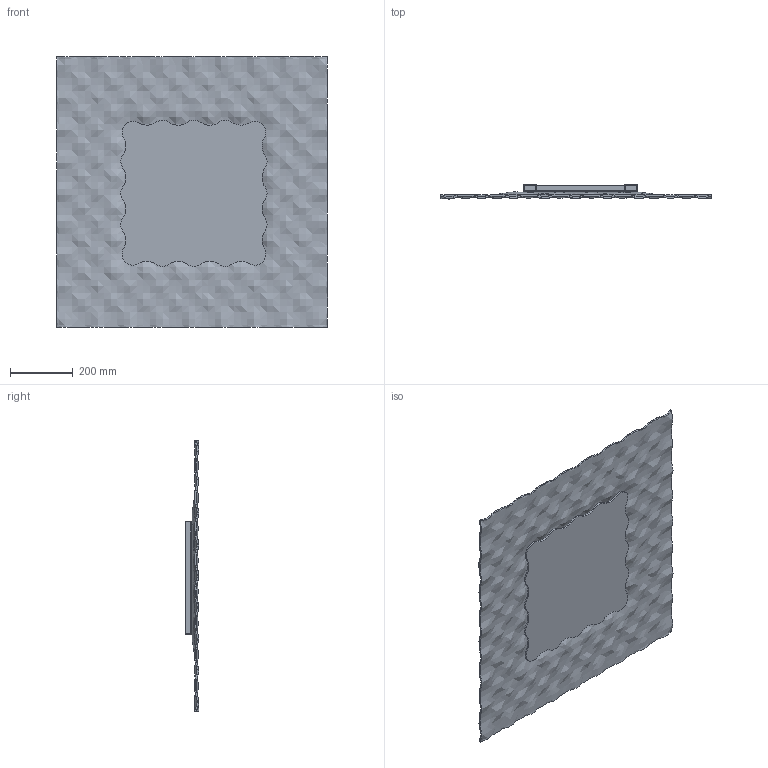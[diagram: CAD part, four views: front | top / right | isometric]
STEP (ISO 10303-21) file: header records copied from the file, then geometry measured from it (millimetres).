
FILE_DESCRIPTION(/* description */ (''),/* implementation_level */ '2;1');
FILE_NAME(/* name */ 'POP_86x86',/* time_stamp */ '2025-02-21T17:12:52+01:00',/* author */ (''),/* organization */ (''),/* preprocessor_version */ 'ST-DEVELOPER v16.5',/* originating_system */ '',/* authorisation */ '');
FILE_SCHEMA (('AUTOMOTIVE_DESIGN'));
Length unit declared in the file: millimetre
Products named in the file (1): Document
Bounding box: 861.72 x 43.87 x 860.66 mm (x, y, z)
Volume: 5078712.4 mm3; surface area: 2218381 mm2
Topology: 6 solids, 6 shells, 85 faces, 188 edges, 115 vertices
Faces by surface type: plane 74, bspline 11
Entity records: 144349 total; most frequent: CARTESIAN_POINT 142955, ORIENTED_EDGE 374, EDGE_CURVE 187, B_SPLINE_CURVE_WITH_KNOTS 173, VERTEX_POINT 114, EDGE_LOOP 93, ADVANCED_FACE 85, FACE_OUTER_BOUND 85
